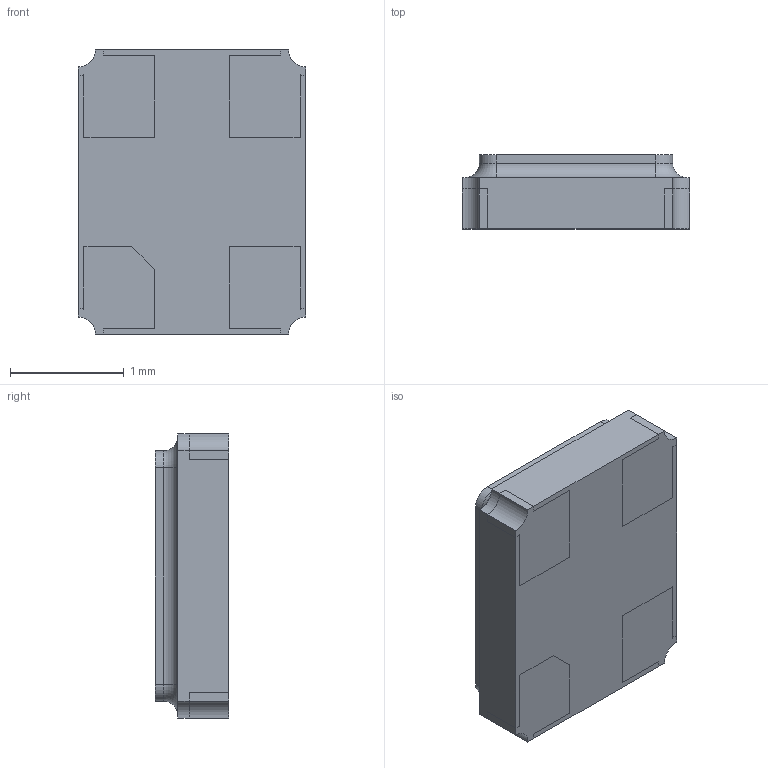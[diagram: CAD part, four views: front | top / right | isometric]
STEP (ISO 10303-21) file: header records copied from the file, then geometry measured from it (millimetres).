
FILE_DESCRIPTION (( 'STEP AP214' ), '1' );
FILE_NAME ('SXT22418ED17-32.000MT.STEP', '2025-01-29T17:44:13', ( '' ), ( '' ), 'SwSTEP 2.0', 'SolidWorks 2021', '' );
FILE_SCHEMA (( 'AUTOMOTIVE_DESIGN' ));
Length unit declared in the file: millimetre
Products named in the file (1): SXT22418ED17-32.000MT
Bounding box: 2 x 0.65 x 2.5 mm (x, y, z)
Volume: 3 mm3; surface area: 36.5 mm2
Topology: 7 solids, 7 shells, 112 faces, 289 edges, 190 vertices
Faces by surface type: plane 71, cylinder 37, torus 4
Entity records: 3498 total; most frequent: DIRECTION 592, CARTESIAN_POINT 592, ORIENTED_EDGE 578, EDGE_CURVE 289, LINE 212, VECTOR 212, VERTEX_POINT 190, AXIS2_PLACEMENT_3D 190
